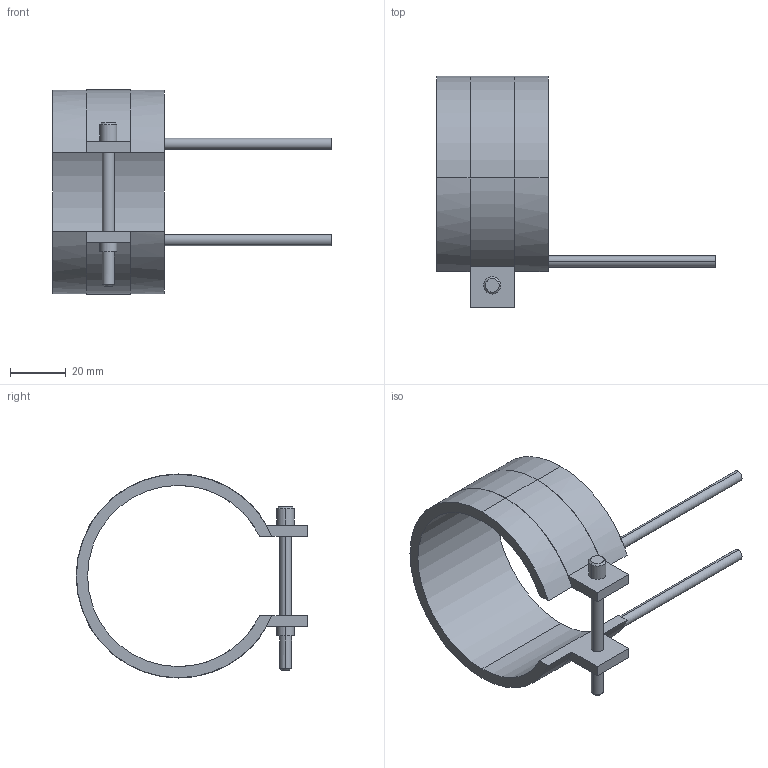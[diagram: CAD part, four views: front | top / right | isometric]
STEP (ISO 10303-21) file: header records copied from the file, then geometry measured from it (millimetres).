
FILE_DESCRIPTION(('CATIA V5 STEP Exchange'),'2;1');
FILE_NAME('C:\Users\Utente\Desktop\IO LAVORO\3D X SITO CF\X SITO\PLASTICA\RF2\14065040.stp','2021-04-03T07:39:13+00:00',('none'),('none'),'CATIA Version 5 Release 20 GA (IN-10)','CATIA V5 STEP AP203','none');
FILE_SCHEMA(('CONFIG_CONTROL_DESIGN'));
Length unit declared in the file: millimetre
Products named in the file (1): 14065040
Bounding box: 100 x 83.1 x 73.2 mm (x, y, z)
Volume: 34455.9 mm3; surface area: 20190.5 mm2
Topology: 1 solids, 1 shells, 45 faces, 116 edges, 76 vertices
Faces by surface type: cylinder 24, plane 17, cone 4
Entity records: 1406 total; most frequent: CARTESIAN_POINT 280, ORIENTED_EDGE 232, DIRECTION 196, EDGE_CURVE 116, AXIS2_PLACEMENT_3D 104, VERTEX_POINT 76, CIRCLE 62, VECTOR 52
